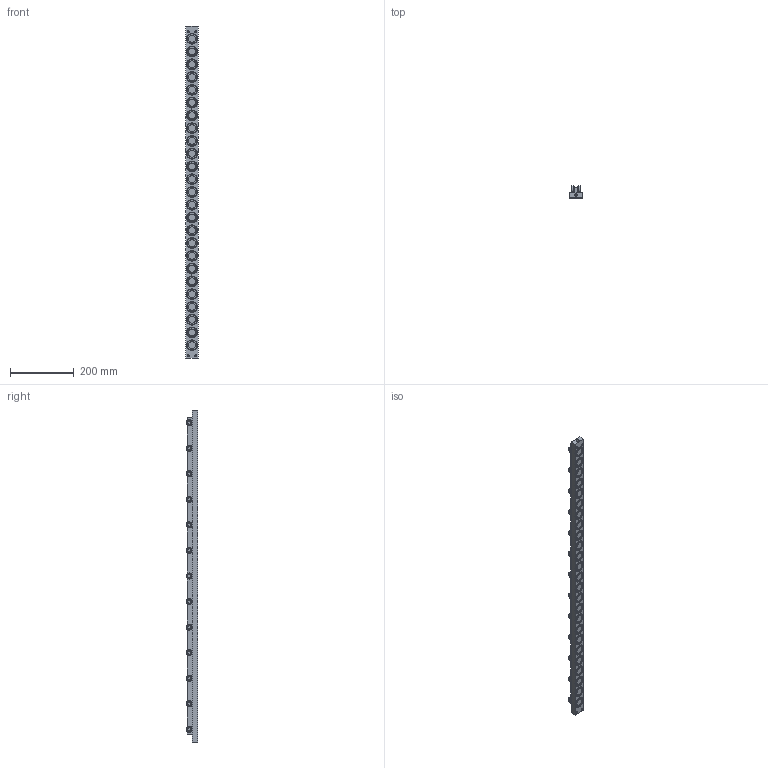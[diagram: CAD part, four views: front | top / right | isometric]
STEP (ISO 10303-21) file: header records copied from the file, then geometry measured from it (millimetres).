
FILE_DESCRIPTION (( 'STEP AP203' ), '1' );
FILE_NAME ('PVLR30S-13.STEP', '2015-12-22T06:37:04', ( '' ), ( '' ), 'SwSTEP 2.0', 'SolidWorks 2013', '' );
FILE_SCHEMA (( 'CONFIG_CONTROL_DESIGN' ));
Length unit declared in the file: millimetre
Products named in the file (1): PVLR30S-13
Bounding box: 38 x 36 x 1040 mm (x, y, z)
Volume: 866468.2 mm3; surface area: 181644 mm2
Topology: 3 solids, 3 shells, 1401 faces, 3487 edges, 2301 vertices
Faces by surface type: cylinder 842, plane 547, cone 12
Entity records: 42558 total; most frequent: DIRECTION 8131, CARTESIAN_POINT 7184, ORIENTED_EDGE 6962, EDGE_CURVE 3481, AXIS2_PLACEMENT_3D 3248, VERTEX_POINT 2301, CIRCLE 1846, VECTOR 1635
